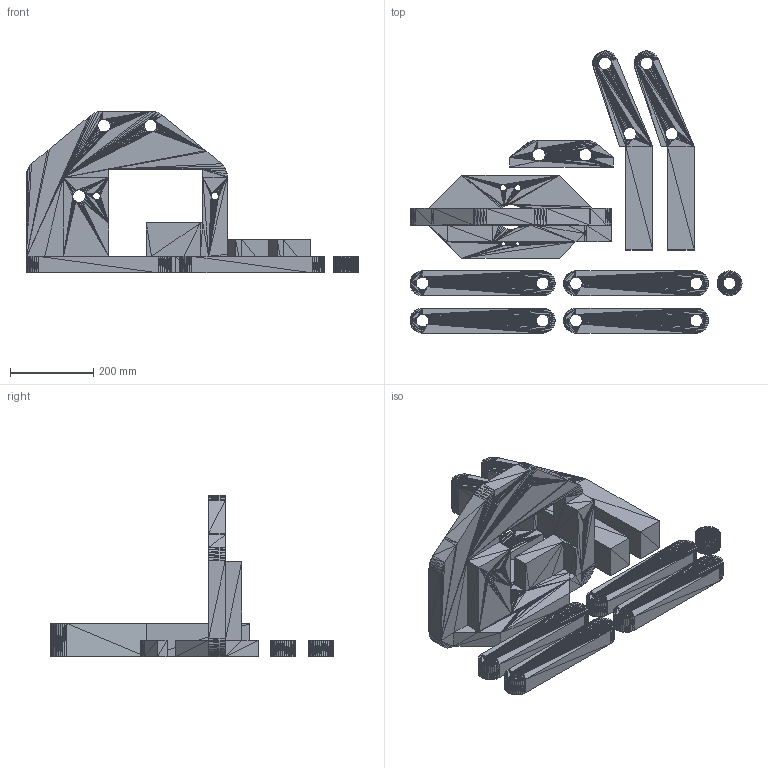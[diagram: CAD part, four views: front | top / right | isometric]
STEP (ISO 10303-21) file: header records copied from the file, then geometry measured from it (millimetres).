
FILE_DESCRIPTION(/* description */ (''),/* implementation_level */ '2;1');
FILE_NAME(/* name */ 'gripper_plate_v2.step',/* time_stamp */ '2026-08-26T22:17:23+02:00',/* author */ (''),/* organization */ (''),/* preprocessor_version */ 'ST-DEVELOPER v20.1',/* originating_system */ 'Autodesk Translation Framework v15.8.0.0',/* authorisation */ '');
FILE_SCHEMA (('AUTOMOTIVE_DESIGN { 1 0 10303 214 3 1 1 }'));
Products named in the file (1): 2026-08-26-22-16-04-519
Bounding box: 800 x 680 x 390 mm (x, y, z)
Volume: 16752027.9 mm3; surface area: 1224242.4 mm2
Topology: 9 solids, 9 shells, 5499 faces, 8250 edges, 2715 vertices
Faces by surface type: plane 5499
Entity records: 107237 total; most frequent: DIRECTION 19250, ORIENTED_EDGE 16500, CARTESIAN_POINT 16465, LINE 8250, VECTOR 8250, EDGE_CURVE 8250, AXIS2_PLACEMENT_3D 5500, FACE_OUTER_BOUND 5499
